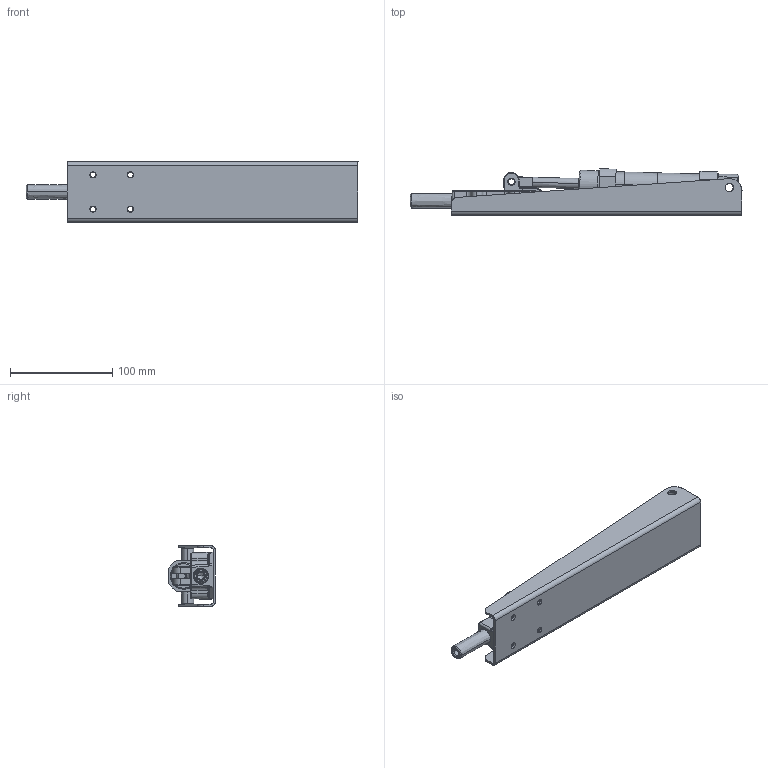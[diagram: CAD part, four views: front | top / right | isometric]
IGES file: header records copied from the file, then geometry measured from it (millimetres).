
Start section: SolidWorks IGES file using analytic representation for surfaces
Global section: file name: D:\GH Files\GH-SW-FILES\GH-A\30600A\30600HLA.IGS; native system: SolidWorks 2006 by SolidWorks Corporation; preprocessor: SolidWorks 2006 by SolidWorks Corporation; author: Administrator; date: 060526.120331; units: millimetre
Bounding box: 324.48 x 45.38 x 59 mm (x, y, z)
Surface area: 126677.2 mm2 (no closed solid volume)
Topology: 0 solids, 0 shells, 436 faces, 5783 edges, 5773 vertices
Faces by surface type: revolution 246, bspline 190
